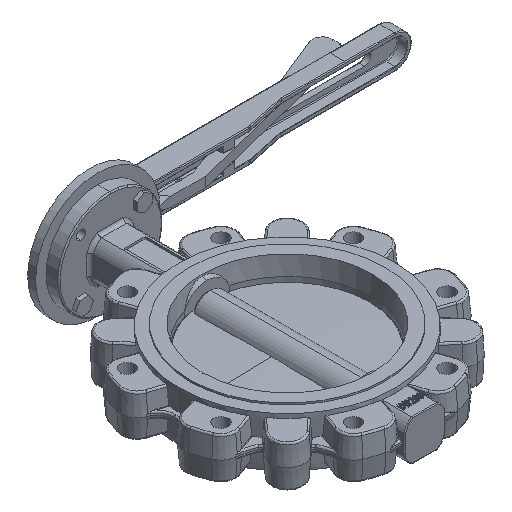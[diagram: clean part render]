
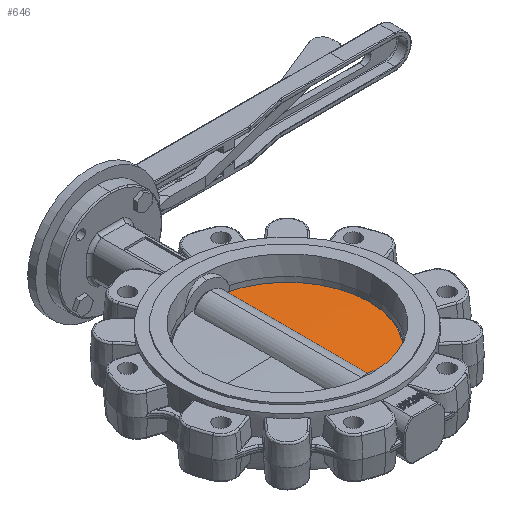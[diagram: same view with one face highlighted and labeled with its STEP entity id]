
A CAD part, isometric view. The second image highlights one B-rep face of the part: STEP entity #646.
In plain terms, the highlighted conical face has half-angle 88.82 degrees and reference radius 98.9 mm.
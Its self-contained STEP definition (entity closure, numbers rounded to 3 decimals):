
#40 = DIRECTION ( 'NONE',  ( 0., 0., 1. ) ) ;
#130 = CARTESIAN_POINT ( 'NONE',  ( 19.032, 38.794, 6.149 ) ) ;
#637 = CARTESIAN_POINT ( 'NONE',  ( 19.344, 93.1, 5.079 ) ) ;
#646 = ADVANCED_FACE ( 'NONE', ( #10339 ), #2378, .T. ) ;
#856 = ORIENTED_EDGE ( 'NONE', *, *, #20905, .F. ) ;
#1893 = AXIS2_PLACEMENT_3D ( 'NONE', #11574, #40, #23988 ) ;
#2264 = CARTESIAN_POINT ( 'NONE',  ( 16.981, -96.85, 5.012 ) ) ;
#2281 = CARTESIAN_POINT ( 'NONE',  ( 15.456, 96.85, 5.017 ) ) ;
#2378 = CONICAL_SURFACE ( 'NONE', #9762, 98.9, 1.55 ) ;
#2906 = CARTESIAN_POINT ( 'NONE',  ( 15.456, -96.85, 5.017 ) ) ;
#3161 = CARTESIAN_POINT ( 'NONE',  ( 18.863, 7.76, 6.649 ) ) ;
#3192 = CIRCLE ( 'NONE', #1893, 98.9 ) ;
#4251 = CARTESIAN_POINT ( 'NONE',  ( 18.053, -94.354, 5.059 ) ) ;
#4910 = ORIENTED_EDGE ( 'NONE', *, *, #34571, .T. ) ;
#7206 = CARTESIAN_POINT ( 'NONE',  ( 20.032, 96.85, 5. ) ) ;
#8356 = ORIENTED_EDGE ( 'NONE', *, *, #18360, .T. ) ;
#9015 = B_SPLINE_CURVE_WITH_KNOTS ( 'NONE', 3,
 ( #14408, #29120, #2264, #22914 ),
 .UNSPECIFIED., .F., .F.,
 ( 4, 4 ),
 ( 0.022, 0.027 ),
 .UNSPECIFIED. ) ;
#9544 = CARTESIAN_POINT ( 'NONE',  ( 19.172, 62.068, 5.704 ) ) ;
#9762 = AXIS2_PLACEMENT_3D ( 'NONE', #30066, #33073, #30188 ) ;
#10129 = CARTESIAN_POINT ( 'NONE',  ( 16.758, -95.606, 5.038 ) ) ;
#10339 = FACE_OUTER_BOUND ( 'NONE', #17225, .T. ) ;
#10356 = CARTESIAN_POINT ( 'NONE',  ( 16.758, 95.606, 5.038 ) ) ;
#10708 = VERTEX_POINT ( 'NONE', #19139 ) ;
#11564 = CARTESIAN_POINT ( 'NONE',  ( 18.507, 96.85, 5.006 ) ) ;
#11574 = CARTESIAN_POINT ( 'NONE',  ( 0., 0., 5. ) ) ;
#11652 = VERTEX_POINT ( 'NONE', #22542 ) ;
#11885 = VERTEX_POINT ( 'NONE', #26974 ) ;
#12196 = CARTESIAN_POINT ( 'NONE',  ( 19.032, -38.795, 6.149 ) ) ;
#14408 = CARTESIAN_POINT ( 'NONE',  ( 20.032, -96.85, 5. ) ) ;
#14424 = CARTESIAN_POINT ( 'NONE',  ( 20.032, 96.85, 5. ) ) ;
#15320 = CARTESIAN_POINT ( 'NONE',  ( 18.9, 15.518, 6.543 ) ) ;
#17225 = EDGE_LOOP ( 'NONE', ( #26184, #28979, #4910, #8356, #856, #26978 ) ) ;
#17385 = B_SPLINE_CURVE_WITH_KNOTS ( 'NONE', 3,
 ( #637, #36189, #9544, #130, #18328, #15320, #3161, #21450, #24219, #18439, #12196, #30525, #18205, #21333 ),
 .UNSPECIFIED., .F., .F.,
 ( 4, 2, 2, 2, 2, 2, 4 ),
 ( 0.014, 0.061, 0.084, 0.107, 0.13, 0.154, 0.2 ),
 .UNSPECIFIED. ) ;
#18205 = CARTESIAN_POINT ( 'NONE',  ( 19.262, -77.584, 5.392 ) ) ;
#18328 = CARTESIAN_POINT ( 'NONE',  ( 18.984, 31.035, 6.294 ) ) ;
#18360 = EDGE_CURVE ( 'NONE', #35599, #20394, #26035, .T. ) ;
#18439 = CARTESIAN_POINT ( 'NONE',  ( 18.984, -31.037, 6.294 ) ) ;
#18510 = EDGE_CURVE ( 'NONE', #11652, #24478, #3192, .T. ) ;
#19134 = CARTESIAN_POINT ( 'NONE',  ( 19.344, -93.1, 5.079 ) ) ;
#19139 = CARTESIAN_POINT ( 'NONE',  ( 15.456, 96.85, 5.017 ) ) ;
#19733 = CARTESIAN_POINT ( 'NONE',  ( 15.456, 96.85, 5.017 ) ) ;
#20394 = VERTEX_POINT ( 'NONE', #2906 ) ;
#20905 = EDGE_CURVE ( 'NONE', #11652, #20394, #9015, .T. ) ;
#21333 = CARTESIAN_POINT ( 'NONE',  ( 19.344, -93.1, 5.079 ) ) ;
#21450 = CARTESIAN_POINT ( 'NONE',  ( 18.863, -7.762, 6.649 ) ) ;
#22542 = CARTESIAN_POINT ( 'NONE',  ( 20.032, -96.85, 5. ) ) ;
#22914 = CARTESIAN_POINT ( 'NONE',  ( 15.456, -96.85, 5.017 ) ) ;
#23254 = B_SPLINE_CURVE_WITH_KNOTS ( 'NONE', 3,
 ( #2281, #23459, #11564, #14424 ),
 .UNSPECIFIED., .F., .F.,
 ( 4, 4 ),
 ( 0.025, 0.03 ),
 .UNSPECIFIED. ) ;
#23459 = CARTESIAN_POINT ( 'NONE',  ( 16.981, 96.85, 5.012 ) ) ;
#23988 = DIRECTION ( 'NONE',  ( 1., 0., 0. ) ) ;
#24219 = CARTESIAN_POINT ( 'NONE',  ( 18.9, -15.521, 6.543 ) ) ;
#24478 = VERTEX_POINT ( 'NONE', #7206 ) ;
#25842 = CARTESIAN_POINT ( 'NONE',  ( 19.344, -93.1, 5.079 ) ) ;
#26026 = B_SPLINE_CURVE_WITH_KNOTS ( 'NONE', 3,
 ( #19733, #10356, #34839, #28421 ),
 .UNSPECIFIED., .F., .F.,
 ( 4, 4 ),
 ( 0.001, 0.006 ),
 .UNSPECIFIED. ) ;
#26035 = B_SPLINE_CURVE_WITH_KNOTS ( 'NONE', 3,
 ( #25842, #4251, #10129, #37271 ),
 .UNSPECIFIED., .F., .F.,
 ( 4, 4 ),
 ( 0., 0.005 ),
 .UNSPECIFIED. ) ;
#26184 = ORIENTED_EDGE ( 'NONE', *, *, #38647, .F. ) ;
#26974 = CARTESIAN_POINT ( 'NONE',  ( 19.344, 93.1, 5.079 ) ) ;
#26978 = ORIENTED_EDGE ( 'NONE', *, *, #18510, .T. ) ;
#28421 = CARTESIAN_POINT ( 'NONE',  ( 19.344, 93.1, 5.079 ) ) ;
#28741 = EDGE_CURVE ( 'NONE', #10708, #11885, #26026, .T. ) ;
#28979 = ORIENTED_EDGE ( 'NONE', *, *, #28741, .T. ) ;
#29120 = CARTESIAN_POINT ( 'NONE',  ( 18.507, -96.85, 5.006 ) ) ;
#30066 = CARTESIAN_POINT ( 'NONE',  ( 0., 0., 5. ) ) ;
#30188 = DIRECTION ( 'NONE',  ( -1., 0., 0. ) ) ;
#30525 = CARTESIAN_POINT ( 'NONE',  ( 19.172, -62.069, 5.704 ) ) ;
#33073 = DIRECTION ( 'NONE',  ( 0., 0., -1. ) ) ;
#34571 = EDGE_CURVE ( 'NONE', #11885, #35599, #17385, .T. ) ;
#34839 = CARTESIAN_POINT ( 'NONE',  ( 18.053, 94.354, 5.059 ) ) ;
#35599 = VERTEX_POINT ( 'NONE', #19134 ) ;
#36189 = CARTESIAN_POINT ( 'NONE',  ( 19.262, 77.584, 5.392 ) ) ;
#37271 = CARTESIAN_POINT ( 'NONE',  ( 15.456, -96.85, 5.017 ) ) ;
#38647 = EDGE_CURVE ( 'NONE', #10708, #24478, #23254, .T. ) ;
